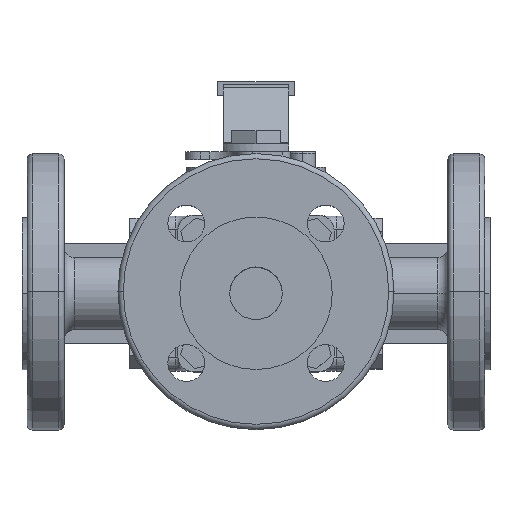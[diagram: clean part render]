
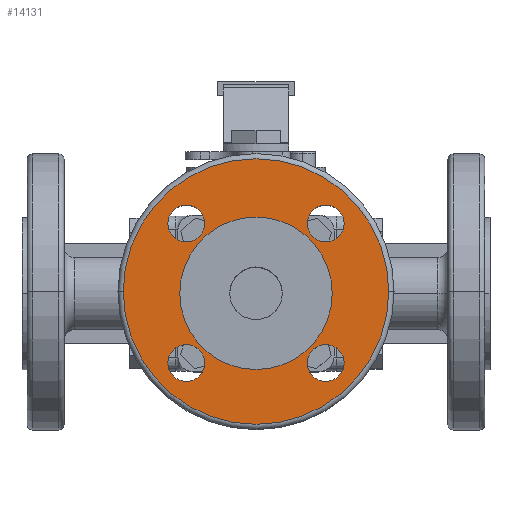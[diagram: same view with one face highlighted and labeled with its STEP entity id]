
A CAD part, top view. The second image highlights one B-rep face of the part: STEP entity #14131.
In plain terms, the highlighted planar face has unit normal (0, 0, 1) as drawn and (1, 0, 0) by its records, which use the part's own axes.
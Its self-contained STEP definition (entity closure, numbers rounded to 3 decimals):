
#1563 = CIRCLE ( 'NONE', #1566, 50.5 ) ;
#1565 = CIRCLE ( 'NONE', #1568, 7. ) ;
#1566 = AXIS2_PLACEMENT_3D ( 'NONE', #2430, #2431, #2432 ) ;
#1567 = CIRCLE ( 'NONE', #1570, 7. ) ;
#1568 = AXIS2_PLACEMENT_3D ( 'NONE', #2433, #2434, #2435 ) ;
#1569 = CIRCLE ( 'NONE', #1572, 7. ) ;
#1570 = AXIS2_PLACEMENT_3D ( 'NONE', #2436, #2437, #2438 ) ;
#1571 = CIRCLE ( 'NONE', #1574, 7. ) ;
#1572 = AXIS2_PLACEMENT_3D ( 'NONE', #2439, #2440, #2441 ) ;
#1573 = CIRCLE ( 'NONE', #1576, 29. ) ;
#1574 = AXIS2_PLACEMENT_3D ( 'NONE', #2444, #2445, #2446 ) ;
#1576 = AXIS2_PLACEMENT_3D ( 'NONE', #2448, #2449, #2450 ) ;
#1742 = AXIS2_PLACEMENT_3D ( 'NONE', #3015, #3016, #3017 ) ;
#2322 = CARTESIAN_POINT ( 'NONE',  ( 51., 0.651, -50.5 ) ) ;
#2325 = CARTESIAN_POINT ( 'NONE',  ( 51., 0.651, 50.5 ) ) ;
#2332 = CARTESIAN_POINT ( 'NONE',  ( 51., 26.517, 33.517 ) ) ;
#2333 = CARTESIAN_POINT ( 'NONE',  ( 51., 26.517, 19.517 ) ) ;
#2336 = CARTESIAN_POINT ( 'NONE',  ( 51., -26.517, 33.517 ) ) ;
#2337 = CARTESIAN_POINT ( 'NONE',  ( 51., -26.517, 19.517 ) ) ;
#2340 = CARTESIAN_POINT ( 'NONE',  ( 51., -26.517, -19.517 ) ) ;
#2341 = CARTESIAN_POINT ( 'NONE',  ( 51., -26.517, -33.517 ) ) ;
#2342 = CARTESIAN_POINT ( 'NONE',  ( 51., 0., -29. ) ) ;
#2343 = CARTESIAN_POINT ( 'NONE',  ( 51., 0., 29. ) ) ;
#2344 = CARTESIAN_POINT ( 'NONE',  ( 51., 26.517, -19.517 ) ) ;
#2345 = CARTESIAN_POINT ( 'NONE',  ( 51., 26.517, -33.517 ) ) ;
#2430 = CARTESIAN_POINT ( 'NONE',  ( 51., 0.651, 0. ) ) ;
#2431 = DIRECTION ( 'NONE',  ( 1., 0., 0. ) ) ;
#2432 = DIRECTION ( 'NONE',  ( 0., 0., 1. ) ) ;
#2433 = CARTESIAN_POINT ( 'NONE',  ( 51., 26.517, 26.517 ) ) ;
#2434 = DIRECTION ( 'NONE',  ( 1., 0., 0. ) ) ;
#2435 = DIRECTION ( 'NONE',  ( 0., 0., -1. ) ) ;
#2436 = CARTESIAN_POINT ( 'NONE',  ( 51., -26.517, 26.517 ) ) ;
#2437 = DIRECTION ( 'NONE',  ( 1., 0., 0. ) ) ;
#2438 = DIRECTION ( 'NONE',  ( 0., 0., -1. ) ) ;
#2439 = CARTESIAN_POINT ( 'NONE',  ( 51., -26.517, -26.517 ) ) ;
#2440 = DIRECTION ( 'NONE',  ( 1., 0., 0. ) ) ;
#2441 = DIRECTION ( 'NONE',  ( 0., 0., -1. ) ) ;
#2444 = CARTESIAN_POINT ( 'NONE',  ( 51., 26.517, -26.517 ) ) ;
#2445 = DIRECTION ( 'NONE',  ( 1., 0., 0. ) ) ;
#2446 = DIRECTION ( 'NONE',  ( 0., 0., -1. ) ) ;
#2448 = CARTESIAN_POINT ( 'NONE',  ( 51., 0., 0. ) ) ;
#2449 = DIRECTION ( 'NONE',  ( 1., 0., 0. ) ) ;
#2450 = DIRECTION ( 'NONE',  ( 0., 0., 1. ) ) ;
#3007 = FACE_BOUND ( 'NONE', #3756, .T. ) ;
#3008 = FACE_OUTER_BOUND ( 'NONE', #3768, .T. ) ;
#3009 = FACE_BOUND ( 'NONE', #3765, .T. ) ;
#3010 = FACE_BOUND ( 'NONE', #3763, .T. ) ;
#3011 = PLANE ( 'NONE',  #1742 ) ;
#3012 = FACE_BOUND ( 'NONE', #3769, .T. ) ;
#3014 = FACE_BOUND ( 'NONE', #3764, .T. ) ;
#3015 = CARTESIAN_POINT ( 'NONE',  ( 51., 0.651, 0. ) ) ;
#3016 = DIRECTION ( 'NONE',  ( -1., 0., 0. ) ) ;
#3017 = DIRECTION ( 'NONE',  ( 0., 0., 1. ) ) ;
#3756 = EDGE_LOOP ( 'NONE', ( #12542, #12543 ) ) ;
#3763 = EDGE_LOOP ( 'NONE', ( #12536, #12537 ) ) ;
#3764 = EDGE_LOOP ( 'NONE', ( #12540, #12541 ) ) ;
#3765 = EDGE_LOOP ( 'NONE', ( #12544, #12545 ) ) ;
#3768 = EDGE_LOOP ( 'NONE', ( #12534, #12535 ) ) ;
#3769 = EDGE_LOOP ( 'NONE', ( #12538, #12539 ) ) ;
#6814 = CIRCLE ( 'NONE', #6819, 50.5 ) ;
#6819 = AXIS2_PLACEMENT_3D ( 'NONE', #7413, #7414, #7415 ) ;
#6826 = CIRCLE ( 'NONE', #6830, 7. ) ;
#6830 = AXIS2_PLACEMENT_3D ( 'NONE', #7433, #7434, #7435 ) ;
#6832 = CIRCLE ( 'NONE', #6836, 7. ) ;
#6836 = AXIS2_PLACEMENT_3D ( 'NONE', #7445, #7446, #7447 ) ;
#6838 = CIRCLE ( 'NONE', #6842, 7. ) ;
#6842 = AXIS2_PLACEMENT_3D ( 'NONE', #7457, #7458, #7459 ) ;
#6844 = CIRCLE ( 'NONE', #6848, 7. ) ;
#6846 = CIRCLE ( 'NONE', #6851, 29. ) ;
#6848 = AXIS2_PLACEMENT_3D ( 'NONE', #7469, #7470, #7471 ) ;
#6851 = AXIS2_PLACEMENT_3D ( 'NONE', #7476, #7477, #7478 ) ;
#7413 = CARTESIAN_POINT ( 'NONE',  ( 51., 0.651, 0. ) ) ;
#7414 = DIRECTION ( 'NONE',  ( 1., 0., 0. ) ) ;
#7415 = DIRECTION ( 'NONE',  ( 0., 0., 1. ) ) ;
#7433 = CARTESIAN_POINT ( 'NONE',  ( 51., 26.517, 26.517 ) ) ;
#7434 = DIRECTION ( 'NONE',  ( 1., 0., 0. ) ) ;
#7435 = DIRECTION ( 'NONE',  ( 0., 0., -1. ) ) ;
#7445 = CARTESIAN_POINT ( 'NONE',  ( 51., -26.517, 26.517 ) ) ;
#7446 = DIRECTION ( 'NONE',  ( 1., 0., 0. ) ) ;
#7447 = DIRECTION ( 'NONE',  ( 0., 0., -1. ) ) ;
#7457 = CARTESIAN_POINT ( 'NONE',  ( 51., -26.517, -26.517 ) ) ;
#7458 = DIRECTION ( 'NONE',  ( 1., 0., 0. ) ) ;
#7459 = DIRECTION ( 'NONE',  ( 0., 0., -1. ) ) ;
#7469 = CARTESIAN_POINT ( 'NONE',  ( 51., 26.517, -26.517 ) ) ;
#7470 = DIRECTION ( 'NONE',  ( 1., 0., 0. ) ) ;
#7471 = DIRECTION ( 'NONE',  ( 0., 0., -1. ) ) ;
#7476 = CARTESIAN_POINT ( 'NONE',  ( 51., 0., 0. ) ) ;
#7477 = DIRECTION ( 'NONE',  ( 1., 0., 0. ) ) ;
#7478 = DIRECTION ( 'NONE',  ( 0., 0., 1. ) ) ;
#8754 = EDGE_CURVE ( 'NONE', #13606, #13609, #6814, .T. ) ;
#8760 = EDGE_CURVE ( 'NONE', #13616, #13617, #6826, .T. ) ;
#8764 = EDGE_CURVE ( 'NONE', #13620, #13621, #6832, .T. ) ;
#8768 = EDGE_CURVE ( 'NONE', #13624, #13625, #6838, .T. ) ;
#8772 = EDGE_CURVE ( 'NONE', #13628, #13629, #6844, .T. ) ;
#8774 = EDGE_CURVE ( 'NONE', #13626, #13627, #6846, .T. ) ;
#12534 = ORIENTED_EDGE ( 'NONE', *, *, #14014, .T. ) ;
#12535 = ORIENTED_EDGE ( 'NONE', *, *, #8754, .T. ) ;
#12536 = ORIENTED_EDGE ( 'NONE', *, *, #14015, .F. ) ;
#12537 = ORIENTED_EDGE ( 'NONE', *, *, #8760, .F. ) ;
#12538 = ORIENTED_EDGE ( 'NONE', *, *, #14016, .F. ) ;
#12539 = ORIENTED_EDGE ( 'NONE', *, *, #8764, .F. ) ;
#12540 = ORIENTED_EDGE ( 'NONE', *, *, #14017, .F. ) ;
#12541 = ORIENTED_EDGE ( 'NONE', *, *, #8768, .F. ) ;
#12542 = ORIENTED_EDGE ( 'NONE', *, *, #14018, .F. ) ;
#12543 = ORIENTED_EDGE ( 'NONE', *, *, #8772, .F. ) ;
#12544 = ORIENTED_EDGE ( 'NONE', *, *, #8774, .F. ) ;
#12545 = ORIENTED_EDGE ( 'NONE', *, *, #14019, .F. ) ;
#13606 = VERTEX_POINT ( 'NONE', #2322 ) ;
#13609 = VERTEX_POINT ( 'NONE', #2325 ) ;
#13616 = VERTEX_POINT ( 'NONE', #2332 ) ;
#13617 = VERTEX_POINT ( 'NONE', #2333 ) ;
#13620 = VERTEX_POINT ( 'NONE', #2336 ) ;
#13621 = VERTEX_POINT ( 'NONE', #2337 ) ;
#13624 = VERTEX_POINT ( 'NONE', #2340 ) ;
#13625 = VERTEX_POINT ( 'NONE', #2341 ) ;
#13626 = VERTEX_POINT ( 'NONE', #2342 ) ;
#13627 = VERTEX_POINT ( 'NONE', #2343 ) ;
#13628 = VERTEX_POINT ( 'NONE', #2344 ) ;
#13629 = VERTEX_POINT ( 'NONE', #2345 ) ;
#14014 = EDGE_CURVE ( 'NONE', #13609, #13606, #1563, .T. ) ;
#14015 = EDGE_CURVE ( 'NONE', #13617, #13616, #1565, .T. ) ;
#14016 = EDGE_CURVE ( 'NONE', #13621, #13620, #1567, .T. ) ;
#14017 = EDGE_CURVE ( 'NONE', #13625, #13624, #1569, .T. ) ;
#14018 = EDGE_CURVE ( 'NONE', #13629, #13628, #1571, .T. ) ;
#14019 = EDGE_CURVE ( 'NONE', #13627, #13626, #1573, .T. ) ;
#14131 = ADVANCED_FACE ( 'NONE', ( #3008, #3010, #3012, #3014, #3007, #3009 ), #3011, .F. ) ;
